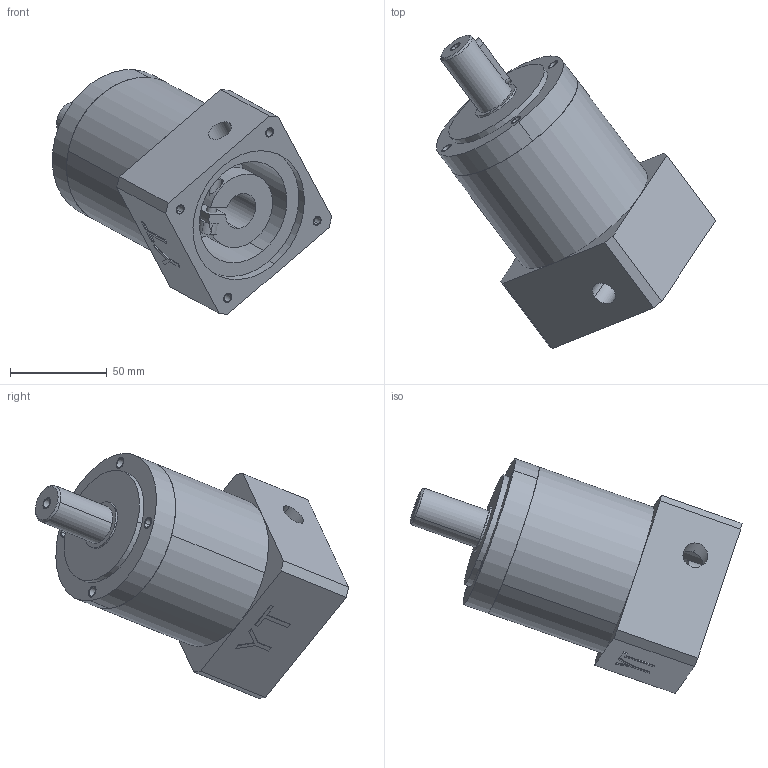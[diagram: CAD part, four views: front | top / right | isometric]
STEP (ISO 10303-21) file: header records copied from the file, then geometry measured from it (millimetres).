
FILE_DESCRIPTION((''),'2;1');
FILE_NAME('PL80L2_ASM','2014-12-27T',('Administrator'),(''),'PRO/ENGINEER BY PARAMETRIC TECHNOLOGY CORPORATION, 2013430','PRO/ENGINEER BY PARAMETRIC TECHNOLOGY CORPORATION, 2013430','');
FILE_SCHEMA(('CONFIG_CONTROL_DESIGN'));
Length unit declared in the file: millimetre
Products named in the file (6): ZHUPL80; XIANTOL2; LIANZHU; LUOSI; FLAND; PL80L2_ASM
Assembly tree (5 placements, depth 2):
  PL80L2_ASM
    ZHUPL80
    XIANTOL2
    LIANZHU
    LUOSI
    FLAND
Bounding box: 144.26 x 161.62 x 126.26 mm (x, y, z)
Volume: 594843.5 mm3; surface area: 85284.9 mm2
Topology: 5 solids, 14 shells, 142 faces, 354 edges, 233 vertices
Faces by surface type: plane 65, cylinder 65, cone 12
Entity records: 4507 total; most frequent: CARTESIAN_POINT 853, DIRECTION 798, ORIENTED_EDGE 652, EDGE_CURVE 344, AXIS2_PLACEMENT_3D 305, VERTEX_POINT 233, VECTOR 188, LINE 188
